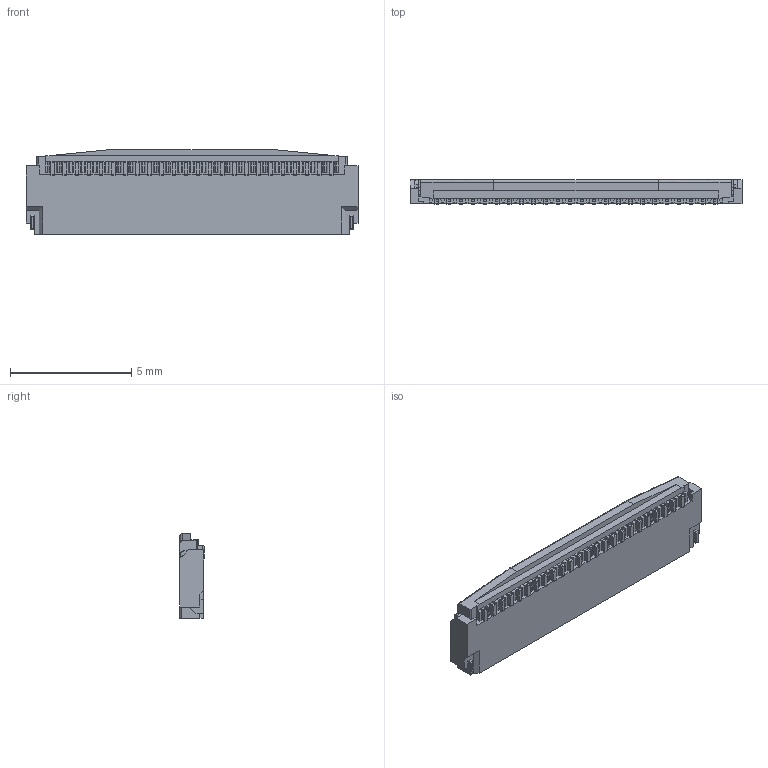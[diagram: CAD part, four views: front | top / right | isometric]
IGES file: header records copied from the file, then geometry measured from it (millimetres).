
Start section: SolidWorks IGES file using analytic representation for surfaces
Global section: file name: C:\3dwork\MINIFLEX5-BFN2-inomae\STEP-IGES\24P-IGES-STEP\20542-024E-01C ACT CLOSE IGES R1 ALL.IGS; native system: SolidWorks 2011; preprocessor: SolidWorks 2011; author: kaihatsu-3dcad-1; date: 130320.173748; units: millimetre
Bounding box: 13.7 x 1 x 3.5 mm (x, y, z)
Surface area: 138.9 mm2 (no closed solid volume)
Topology: 0 solids, 0 shells, 529 faces, 3656 edges, 3652 vertices
Faces by surface type: bspline 420, revolution 109
